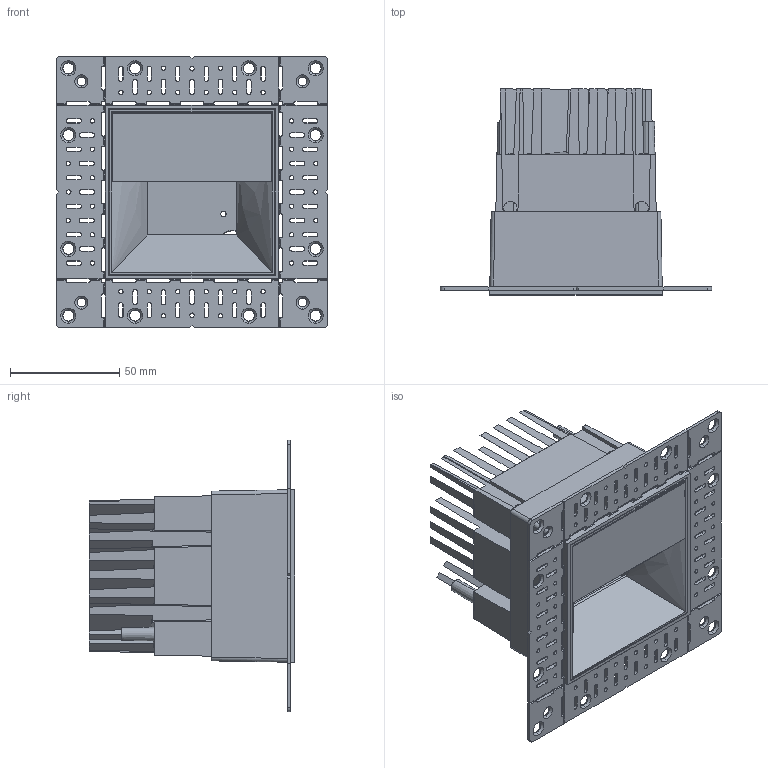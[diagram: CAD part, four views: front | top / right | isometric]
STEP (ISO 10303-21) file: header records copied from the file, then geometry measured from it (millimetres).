
FILE_DESCRIPTION (( 'STEP AP214' ), '1' );
FILE_NAME ('WG-H-PTD3-FA-SPT-SWW.STEP', '2023-02-03T20:11:58', ( '' ), ( '' ), 'SwSTEP 2.0', 'SolidWorks 2021', '' );
FILE_SCHEMA (( 'AUTOMOTIVE_DESIGN' ));
Length unit declared in the file: millimetre
Products named in the file (8): 720-10051-304; 310-10030-101_92005A116; 720-10049-300; WG-CV-PTD3-SWW-WW-_-__; WG-H-PTD3-FA-SPT-SWW; 340-10026-400_stretch out; 720-10052-304; 720-10038-300
Assembly tree (8 placements, depth 3):
  WG-H-PTD3-FA-SPT-SWW
    720-10049-300
    WG-CV-PTD3-SWW-WW-_-__
      720-10051-304
      720-10052-304
      310-10030-101_92005A116  x2
      340-10026-400_stretch out
    720-10038-300
Bounding box: 124 x 94 x 124 mm (x, y, z)
Volume: 185235.5 mm3; surface area: 163128.5 mm2
Topology: 7 solids, 7 shells, 1835 faces, 5250 edges, 3319 vertices
Faces by surface type: plane 709, cylinder 456, cone 383, bspline 185, sphere 57, torus 45
Entity records: 61530 total; most frequent: CARTESIAN_POINT 18027, ORIENTED_EDGE 9796, DIRECTION 8333, EDGE_CURVE 4898, VERTEX_POINT 3126, AXIS2_PLACEMENT_3D 2901, VECTOR 2531, LINE 2531
